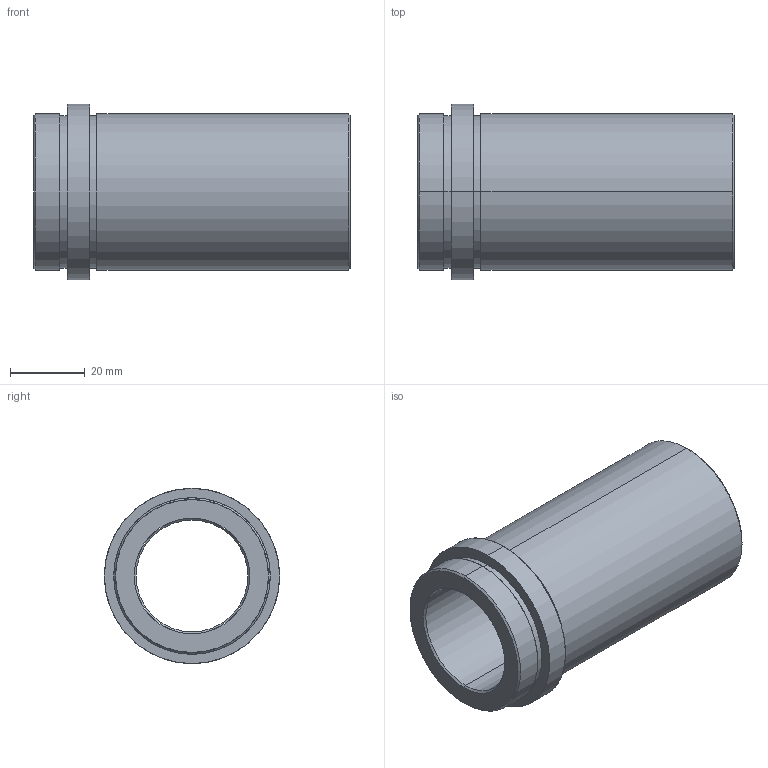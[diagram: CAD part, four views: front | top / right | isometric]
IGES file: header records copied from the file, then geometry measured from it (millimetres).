
Start section: SolidWorks IGES FILE using analytic representation for surfaces
Global section: file name: D:\zzzzz\Delta\D21\30\D21 - 30x76.IGS; native system: SolidWorks 2004 by SolidWorks Corporation; preprocessor: Version 5.3; author: Hkn; date: 080326.192954; units: millimetre
Bounding box: 85 x 47 x 47 mm (x, y, z)
Surface area: 21492.7 mm2 (no closed solid volume)
Topology: 0 solids, 0 shells, 26 faces, 848 edges, 848 vertices
Faces by surface type: revolution 20, bspline 6
